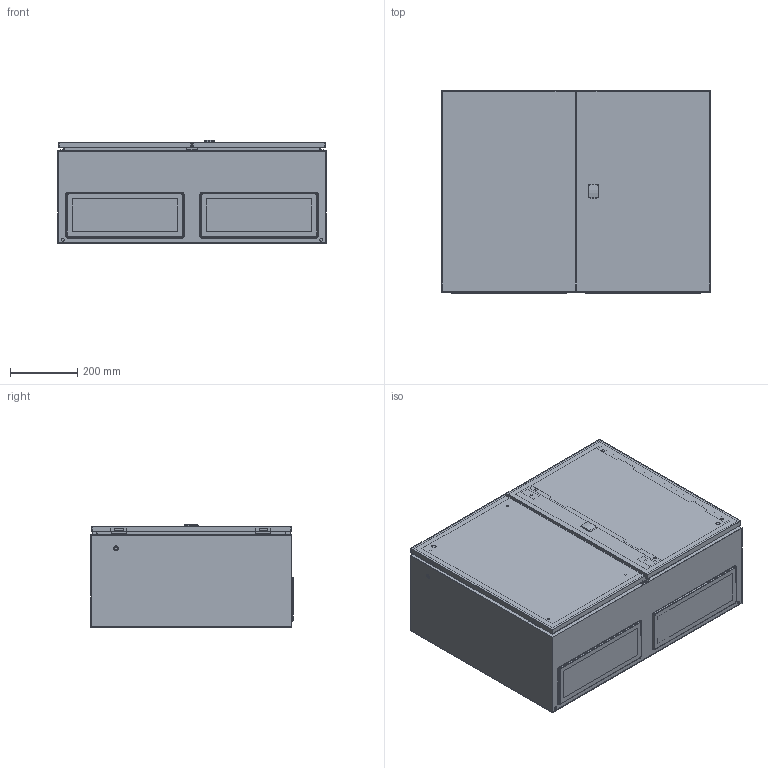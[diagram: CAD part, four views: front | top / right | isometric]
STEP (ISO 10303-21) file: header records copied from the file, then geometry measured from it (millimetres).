
FILE_DESCRIPTION( ( 'STEP AP214' ), '1' );
FILE_NAME( 'p:/temp/worker_134/temp/exporttempdir_480_348_W6rpj/format_0/MAD0608030R5(0).stp', '2021-03-15T19:14:57', ( 'License CC BY-ND 4.0' ), ( 'CADENAS' ), ' ', 'PARTsolutions', ' ' );
FILE_SCHEMA( ( 'AUTOMOTIVE_DESIGN { 1 0 10303 214 1 1 1 1 }' ) );
Length unit declared in the file: millimetre
Products named in the file (13): MAD0608030R5(0); _MAD0608030(0); _MMSH06SS(0)_right; _ADP06080RR5(0); _ALL503(0,2.8); _MADLS0600(0); _8844-0649-02(0)_Rod guide; _AMP06080_MPL(0); _AF02R5_GP(0); _AG02_GPG(0); _MMSH06SS(0)_left; _ADP06080LR5(0); _8195-1005_0
Assembly tree (18 placements, depth 2):
  MAD0608030R5(0)
    _MAD0608030(0)
    _MMSH06SS(0)_right  x2
    _ADP06080RR5(0)
    _ALL503(0,2.8)
    _MADLS0600(0)
    _8844-0649-02(0)_Rod guide  x2
    _AMP06080_MPL(0)
    _AF02R5_GP(0)  x2
    _AG02_GPG(0)  x2
    _MMSH06SS(0)_left  x2
    _ADP06080LR5(0)
    _8195-1005_0  x2
Bounding box: 800 x 603.9 x 308.72 mm (x, y, z)
Volume: 4721529.6 mm3; surface area: 5006639 mm2
Topology: 18 solids, 18 shells, 815 faces, 1999 edges, 1307 vertices
Faces by surface type: plane 558, cylinder 176, cone 69, torus 8, bspline 4
Full cylindrical faces by diameter (mm): 4 x4, 4.9 x4, 5 x1, 5.8 x2, 6 x10, 6.5 x2, 6.9 x2, 7 x8, 7.75 x2, 8 x12, 8.5 x4, 8.7 x2, 9 x6, 14 x8, 15 x4, 18 x1, 27 x1
Entity records: 26405 total; most frequent: CARTESIAN_POINT 3911, DIRECTION 3431, ORIENTED_EDGE 3180, EDGE_CURVE 1590, AXIS2_PLACEMENT_3D 1154, LINE 1123, VECTOR 1123, VERTEX_POINT 1108
